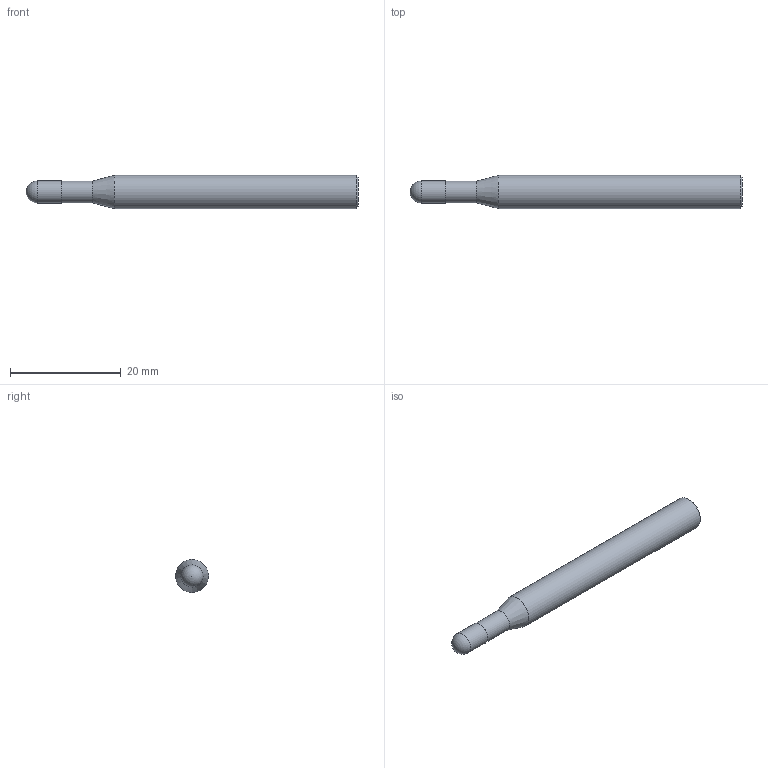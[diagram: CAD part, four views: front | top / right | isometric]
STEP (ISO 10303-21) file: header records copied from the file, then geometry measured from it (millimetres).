
FILE_DESCRIPTION(/* description */ (''),/* implementation_level */ '2;1');
FILE_NAME(/* name */ 'HSXBC4040 0660.stp',/* time_stamp */ '2026-01-27T10:28:55+08:00',/* author */ (''),/* organization */ (''),/* preprocessor_version */ 'ST-DEVELOPER v16',/* originating_system */ 'SIEMENS PLM Software NX 10.0',/* authorisation */ '');
FILE_SCHEMA (('CONFIG_CONTROL_DESIGN'));
Length unit declared in the file: millimetre
Products named in the file (1): HSXBC4040 0660_dxf
Bounding box: 60 x 6 x 6 mm (x, y, z)
Volume: 1461 mm3; surface area: 1068.5 mm2
Topology: 1 solids, 1 shells, 8 faces, 15 edges, 9 vertices
Faces by surface type: cylinder 3, plane 2, cone 2, sphere 1
Full cylindrical faces by diameter (mm): 3.9 x1, 4 x1, 6 x1
Entity records: 238 total; most frequent: DIRECTION 32, CARTESIAN_POINT 23, AXIS2_PLACEMENT_3D 16, EDGE_LOOP 14, ORIENTED_EDGE 14, FACE_BOUND 12, ADVANCED_FACE 8, PERSON_AND_ORGANIZATION 7
